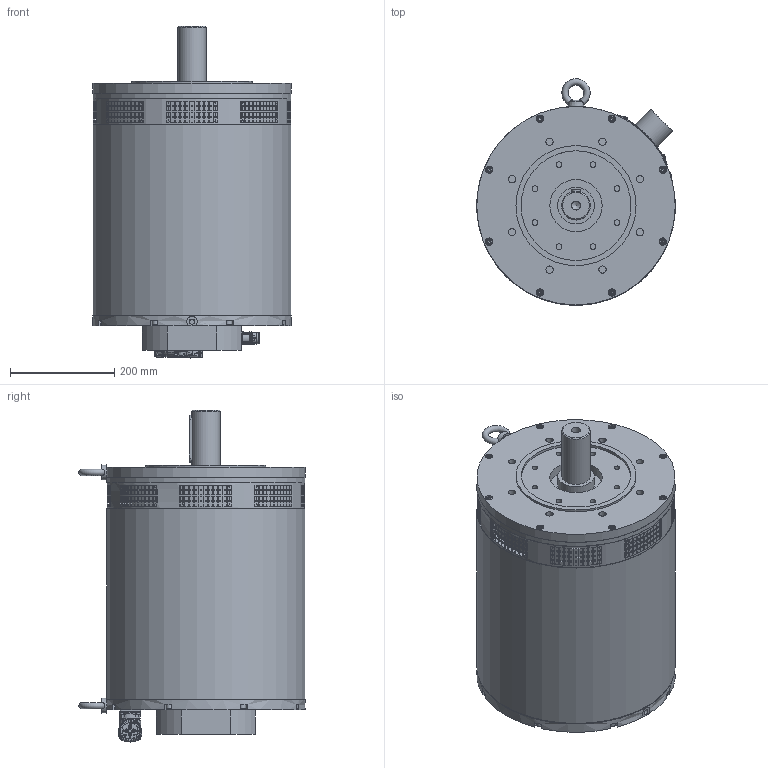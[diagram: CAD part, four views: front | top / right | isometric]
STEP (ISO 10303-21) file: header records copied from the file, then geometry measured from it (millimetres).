
FILE_DESCRIPTION(/* description */ (''),/* implementation_level */ '2;1');
FILE_NAME(/* name */ 'C:\Users\Public\Documents\Autodesk\Inventor LT 2014\Workspace\Motori Sito WEB\TG_9\STEP_DAP_9x\DAP_93_x099.stp',/* time_stamp */ '2021-06-14T14:41:09+02:00',/* author */ ('marcor'),/* organization */ (''),/* preprocessor_version */ 'ST-DEVELOPER v15.2',/* originating_system */ 'Autodesk Inventor LT ',/* authorisation */ '');
FILE_SCHEMA (('AUTOMOTIVE_DESIGN { 1 0 10303 214 3 1 1 }'));
Products named in the file (1): DAP_93_x099
Bounding box: 380 x 433.03 x 635.55 mm (x, y, z)
Volume: 53976013.6 mm3; surface area: 1561661.9 mm2
Topology: 37 solids, 52 shells, 3438 faces, 9386 edges, 6158 vertices
Faces by surface type: plane 2135, cylinder 744, cone 335, torus 117, bspline 86, sphere 21
Full cylindrical faces by diameter (mm): 1.431 x12, 2 x2, 2.224 x4, 2.5 x4, 2.7 x4, 2.88 x4, 3.242 x4, 3.6 x5, 4 x5, 4.8 x4, 4.917 x4, 5.4 x1, 6 x4, 6.5 x4, 6.647 x16, 7 x4, 8 x19, 8.5 x1, 9 x16, 9.853 x2, 10 x12, 10.106 x3, 11 x12, 12 x2, 13 x16, 13.835 x8, 14 x8, 14.9 x1, 17.294 x1, 19.8 x1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
Entity records: 111935 total; most frequent: CARTESIAN_POINT 26255, ORIENTED_EDGE 17534, DIRECTION 17110, EDGE_CURVE 8767, AXIS2_PLACEMENT_3D 6159, VERTEX_POINT 5986, LINE 4792, VECTOR 4792
